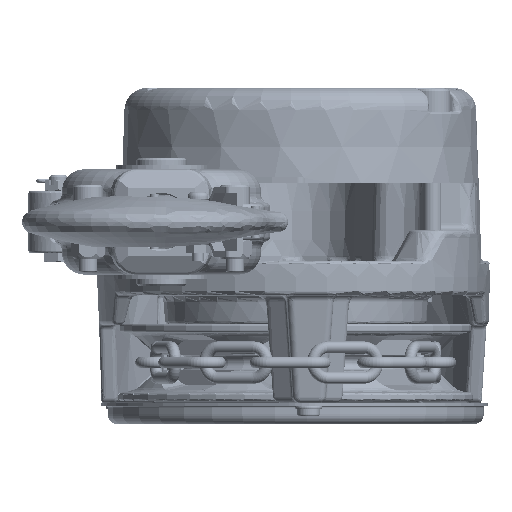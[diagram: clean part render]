
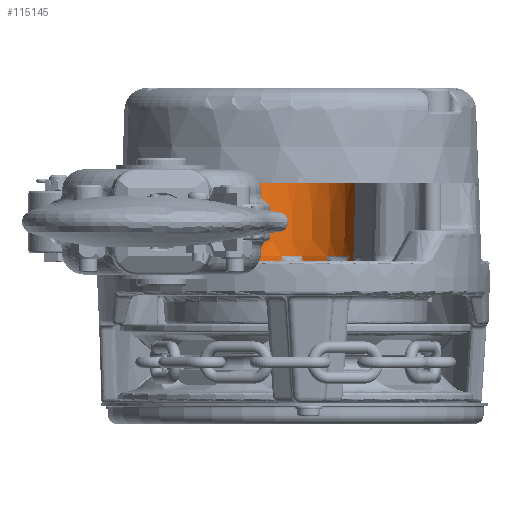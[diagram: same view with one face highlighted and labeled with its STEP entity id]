
A CAD part, front view. The second image highlights one B-rep face of the part: STEP entity #115145.
In plain terms, the highlighted conical face has half-angle 1.685 degrees and reference radius 27.5 mm.
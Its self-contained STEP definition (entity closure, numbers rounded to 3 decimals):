
#3413 = VECTOR ( 'NONE', #23089, 1000. ) ;
#5662 = CONICAL_SURFACE ( 'NONE', #228023, 27.5, 0.029 ) ;
#6016 = AXIS2_PLACEMENT_3D ( 'NONE', #31208, #186326, #250214 ) ;
#20541 = DIRECTION ( 'NONE',  ( 0., 0., -1. ) ) ;
#23089 = DIRECTION ( 'NONE',  ( 0.026, 0.013, 1. ) ) ;
#23972 = DIRECTION ( 'NONE',  ( 0., 0., -1. ) ) ;
#25368 = CARTESIAN_POINT ( 'NONE',  ( 0., 0., 34. ) ) ;
#25689 = DIRECTION ( 'NONE',  ( -0.028, -0.008, -1. ) ) ;
#25904 = ORIENTED_EDGE ( 'NONE', *, *, #59909, .T. ) ;
#26382 = VERTEX_POINT ( 'NONE', #55223 ) ;
#27240 = DIRECTION ( 'NONE',  ( -0.005, 0.029, 1. ) ) ;
#27832 = VERTEX_POINT ( 'NONE', #152480 ) ;
#28248 = DIRECTION ( 'NONE',  ( 0., 0., 1. ) ) ;
#30414 = EDGE_CURVE ( 'NONE', #154476, #145300, #36556, .T. ) ;
#30863 = DIRECTION ( 'NONE',  ( 0., 0., -1. ) ) ;
#31208 = CARTESIAN_POINT ( 'NONE',  ( 0., 0., -3.059 ) ) ;
#31662 = DIRECTION ( 'NONE',  ( 1., 0., 0. ) ) ;
#32578 = DIRECTION ( 'NONE',  ( 0., 0., -1. ) ) ;
#35268 = EDGE_CURVE ( 'NONE', #203326, #191324, #269895, .T. ) ;
#35795 = VERTEX_POINT ( 'NONE', #203961 ) ;
#36178 = DIRECTION ( 'NONE',  ( -0.017, 0.024, 1. ) ) ;
#36385 = ORIENTED_EDGE ( 'NONE', *, *, #242069, .T. ) ;
#36556 = CIRCLE ( 'NONE', #92053, 26.557 ) ;
#36666 = CARTESIAN_POINT ( 'NONE',  ( 4.327, 26.144, 0. ) ) ;
#38771 = VECTOR ( 'NONE', #55089, 1000. ) ;
#48356 = CARTESIAN_POINT ( 'NONE',  ( 0., 0., 1.941 ) ) ;
#48551 = VERTEX_POINT ( 'NONE', #129692 ) ;
#49868 = ORIENTED_EDGE ( 'NONE', *, *, #258261, .F. ) ;
#52078 = DIRECTION ( 'NONE',  ( 1., 0., 0. ) ) ;
#52590 = EDGE_CURVE ( 'NONE', #48551, #113578, #122277, .T. ) ;
#55089 = DIRECTION ( 'NONE',  ( -0.026, 0.013, 1. ) ) ;
#55223 = CARTESIAN_POINT ( 'NONE',  ( -23.847, 11.687, 1.941 ) ) ;
#56514 = CARTESIAN_POINT ( 'NONE',  ( -23.796, 11.662, 0. ) ) ;
#56843 = EDGE_CURVE ( 'NONE', #100725, #203326, #255149, .T. ) ;
#59909 = EDGE_CURVE ( 'NONE', #259439, #117075, #163513, .T. ) ;
#66168 = VERTEX_POINT ( 'NONE', #138719 ) ;
#66613 = LINE ( 'NONE', #221762, #3413 ) ;
#68206 = AXIS2_PLACEMENT_3D ( 'NONE', #171815, #148646, #31662 ) ;
#68463 = ORIENTED_EDGE ( 'NONE', *, *, #56843, .T. ) ;
#78181 = CARTESIAN_POINT ( 'NONE',  ( 4.336, 26.201, 1.941 ) ) ;
#83378 = ORIENTED_EDGE ( 'NONE', *, *, #178119, .F. ) ;
#88157 = EDGE_CURVE ( 'NONE', #117075, #186222, #276507, .T. ) ;
#90005 = ORIENTED_EDGE ( 'NONE', *, *, #98783, .T. ) ;
#92053 = AXIS2_PLACEMENT_3D ( 'NONE', #284508, #148277, #197493 ) ;
#92630 = EDGE_LOOP ( 'NONE', ( #143297, #135825, #49868, #83378, #68463, #183001, #203422, #36385, #210656, #25904, #130096, #90005, #264743, #274059, #179474, #229747 ) ) ;
#95817 = CARTESIAN_POINT ( 'NONE',  ( -15.143, 21.747, 0. ) ) ;
#97914 = EDGE_CURVE ( 'NONE', #259439, #66168, #98671, .T. ) ;
#98671 = LINE ( 'NONE', #95817, #254766 ) ;
#98783 = EDGE_CURVE ( 'NONE', #186222, #113578, #259058, .T. ) ;
#99744 = CARTESIAN_POINT ( 'NONE',  ( 25.51, 6.835, -3.059 ) ) ;
#100725 = VERTEX_POINT ( 'NONE', #177237 ) ;
#100807 = CARTESIAN_POINT ( 'NONE',  ( 0., 0., -3.059 ) ) ;
#105138 = CIRCLE ( 'NONE', #183930, 27.5 ) ;
#112471 = DIRECTION ( 'NONE',  ( 1., 0., 0. ) ) ;
#113578 = VERTEX_POINT ( 'NONE', #78181 ) ;
#115145 = ADVANCED_FACE ( 'NONE', ( #242990 ), #5662, .F. ) ;
#116829 = EDGE_CURVE ( 'NONE', #191324, #26382, #126072, .T. ) ;
#117075 = VERTEX_POINT ( 'NONE', #202735 ) ;
#118133 = DIRECTION ( 'NONE',  ( 1., 0., 0. ) ) ;
#120190 = CARTESIAN_POINT ( 'NONE',  ( 0., 0., 34. ) ) ;
#122277 = LINE ( 'NONE', #36666, #122319 ) ;
#122319 = VECTOR ( 'NONE', #210722, 1000. ) ;
#126072 = LINE ( 'NONE', #56514, #38771 ) ;
#127664 = CARTESIAN_POINT ( 'NONE',  ( -15.091, 21.673, -3.059 ) ) ;
#127893 = CARTESIAN_POINT ( 'NONE',  ( 0., 0., 1.941 ) ) ;
#129692 = CARTESIAN_POINT ( 'NONE',  ( 4.312, 26.056, -3.059 ) ) ;
#130096 = ORIENTED_EDGE ( 'NONE', *, *, #88157, .T. ) ;
#130859 = CARTESIAN_POINT ( 'NONE',  ( -4.336, 26.201, 1.941 ) ) ;
#135825 = ORIENTED_EDGE ( 'NONE', *, *, #213125, .T. ) ;
#138719 = CARTESIAN_POINT ( 'NONE',  ( -15.175, 21.794, 1.941 ) ) ;
#141741 = CARTESIAN_POINT ( 'NONE',  ( -4.327, 26.144, 0. ) ) ;
#143297 = ORIENTED_EDGE ( 'NONE', *, *, #193163, .F. ) ;
#145300 = VERTEX_POINT ( 'NONE', #169059 ) ;
#146356 = DIRECTION ( 'NONE',  ( 0.028, -0.008, -1. ) ) ;
#148277 = DIRECTION ( 'NONE',  ( 0., 0., -1. ) ) ;
#148646 = DIRECTION ( 'NONE',  ( 0., 0., -1. ) ) ;
#152480 = CARTESIAN_POINT ( 'NONE',  ( 23.715, 11.622, -3.059 ) ) ;
#152941 = VERTEX_POINT ( 'NONE', #266068 ) ;
#154476 = VERTEX_POINT ( 'NONE', #176125 ) ;
#154760 = LINE ( 'NONE', #243296, #157010 ) ;
#155300 = DIRECTION ( 'NONE',  ( -1., 0., 0. ) ) ;
#157010 = VECTOR ( 'NONE', #25689, 1000. ) ;
#157133 = AXIS2_PLACEMENT_3D ( 'NONE', #176294, #23972, #112471 ) ;
#161084 = EDGE_CURVE ( 'NONE', #152941, #154476, #250544, .T. ) ;
#163137 = CARTESIAN_POINT ( 'NONE',  ( -23.715, 11.622, -3.059 ) ) ;
#163513 = CIRCLE ( 'NONE', #6016, 26.41 ) ;
#168946 = VECTOR ( 'NONE', #27240, 1000. ) ;
#169059 = CARTESIAN_POINT ( 'NONE',  ( 23.847, 11.687, 1.941 ) ) ;
#171815 = CARTESIAN_POINT ( 'NONE',  ( 0., 0., -3.059 ) ) ;
#176125 = CARTESIAN_POINT ( 'NONE',  ( 15.175, 21.794, 1.941 ) ) ;
#176294 = CARTESIAN_POINT ( 'NONE',  ( 0., 0., -3.059 ) ) ;
#177237 = CARTESIAN_POINT ( 'NONE',  ( -26.563, 7.118, 34. ) ) ;
#178119 = EDGE_CURVE ( 'NONE', #100725, #35795, #105138, .T. ) ;
#179474 = ORIENTED_EDGE ( 'NONE', *, *, #161084, .T. ) ;
#180326 = CIRCLE ( 'NONE', #157133, 26.41 ) ;
#183001 = ORIENTED_EDGE ( 'NONE', *, *, #35268, .T. ) ;
#183743 = VECTOR ( 'NONE', #146356, 1000. ) ;
#183930 = AXIS2_PLACEMENT_3D ( 'NONE', #120190, #207211, #52078 ) ;
#184979 = AXIS2_PLACEMENT_3D ( 'NONE', #127893, #20541, #155300 ) ;
#186222 = VERTEX_POINT ( 'NONE', #130859 ) ;
#186326 = DIRECTION ( 'NONE',  ( 0., 0., -1. ) ) ;
#190981 = VERTEX_POINT ( 'NONE', #99744 ) ;
#191324 = VERTEX_POINT ( 'NONE', #163137 ) ;
#193163 = EDGE_CURVE ( 'NONE', #27832, #145300, #66613, .T. ) ;
#193365 = EDGE_CURVE ( 'NONE', #48551, #152941, #234896, .T. ) ;
#197493 = DIRECTION ( 'NONE',  ( -1., 0., 0. ) ) ;
#200325 = AXIS2_PLACEMENT_3D ( 'NONE', #100807, #32578, #254469 ) ;
#200404 = VECTOR ( 'NONE', #254814, 1000. ) ;
#202735 = CARTESIAN_POINT ( 'NONE',  ( -4.312, 26.056, -3.059 ) ) ;
#203326 = VERTEX_POINT ( 'NONE', #239598 ) ;
#203422 = ORIENTED_EDGE ( 'NONE', *, *, #116829, .T. ) ;
#203961 = CARTESIAN_POINT ( 'NONE',  ( 26.563, 7.118, 34. ) ) ;
#207211 = DIRECTION ( 'NONE',  ( 0., 0., -1. ) ) ;
#210214 = CARTESIAN_POINT ( 'NONE',  ( -26.563, 7.118, 34. ) ) ;
#210656 = ORIENTED_EDGE ( 'NONE', *, *, #97914, .F. ) ;
#210722 = DIRECTION ( 'NONE',  ( 0.005, 0.029, 1. ) ) ;
#213125 = EDGE_CURVE ( 'NONE', #27832, #190981, #180326, .T. ) ;
#221762 = CARTESIAN_POINT ( 'NONE',  ( 23.796, 11.662, 0. ) ) ;
#228023 = AXIS2_PLACEMENT_3D ( 'NONE', #25368, #28248, #118133 ) ;
#229747 = ORIENTED_EDGE ( 'NONE', *, *, #30414, .T. ) ;
#234896 = CIRCLE ( 'NONE', #68206, 26.41 ) ;
#239598 = CARTESIAN_POINT ( 'NONE',  ( -25.51, 6.835, -3.059 ) ) ;
#242069 = EDGE_CURVE ( 'NONE', #26382, #66168, #272007, .T. ) ;
#242990 = FACE_OUTER_BOUND ( 'NONE', #92630, .T. ) ;
#243296 = CARTESIAN_POINT ( 'NONE',  ( 26.563, 7.118, 34. ) ) ;
#250214 = DIRECTION ( 'NONE',  ( 1., 0., 0. ) ) ;
#250544 = LINE ( 'NONE', #257653, #200404 ) ;
#254469 = DIRECTION ( 'NONE',  ( 1., 0., 0. ) ) ;
#254766 = VECTOR ( 'NONE', #36178, 1000. ) ;
#254814 = DIRECTION ( 'NONE',  ( 0.017, 0.024, 1. ) ) ;
#255149 = LINE ( 'NONE', #210214, #183743 ) ;
#257653 = CARTESIAN_POINT ( 'NONE',  ( 15.143, 21.747, 0. ) ) ;
#258261 = EDGE_CURVE ( 'NONE', #35795, #190981, #154760, .T. ) ;
#259058 = CIRCLE ( 'NONE', #184979, 26.557 ) ;
#259439 = VERTEX_POINT ( 'NONE', #127664 ) ;
#262900 = AXIS2_PLACEMENT_3D ( 'NONE', #48356, #30863, #274431 ) ;
#264743 = ORIENTED_EDGE ( 'NONE', *, *, #52590, .F. ) ;
#266068 = CARTESIAN_POINT ( 'NONE',  ( 15.091, 21.673, -3.059 ) ) ;
#269895 = CIRCLE ( 'NONE', #200325, 26.41 ) ;
#272007 = CIRCLE ( 'NONE', #262900, 26.557 ) ;
#274059 = ORIENTED_EDGE ( 'NONE', *, *, #193365, .T. ) ;
#274431 = DIRECTION ( 'NONE',  ( -1., 0., 0. ) ) ;
#276507 = LINE ( 'NONE', #141741, #168946 ) ;
#284508 = CARTESIAN_POINT ( 'NONE',  ( 0., 0., 1.941 ) ) ;
